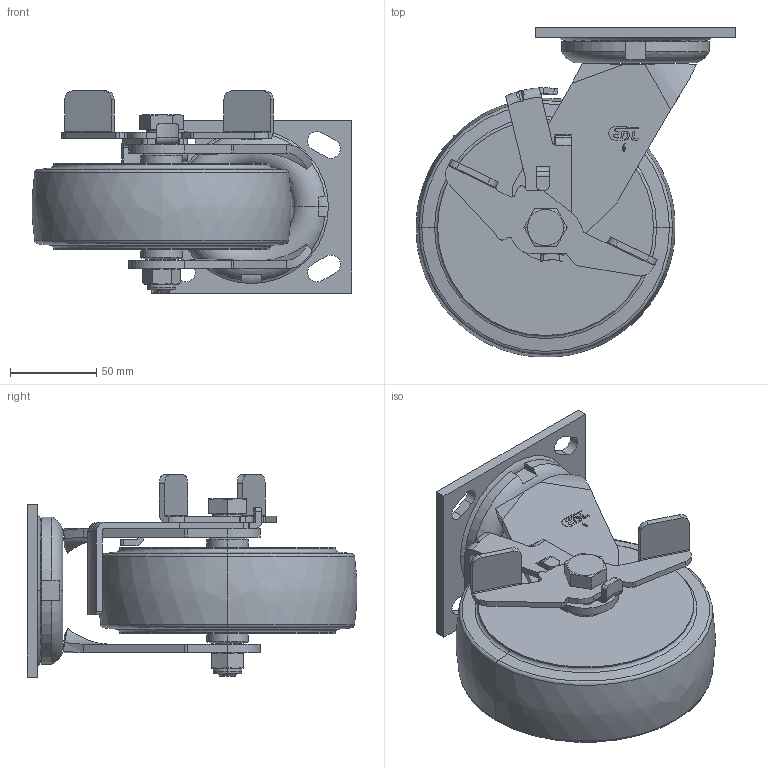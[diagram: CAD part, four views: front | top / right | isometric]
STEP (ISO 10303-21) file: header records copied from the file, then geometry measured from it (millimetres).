
FILE_DESCRIPTION((''),'2;1');
FILE_NAME('73126C-736-86_ASM','2020-12-01T',('lenovo'),(''),'PRO/ENGINEER BY PARAMETRIC TECHNOLOGY CORPORATION, 2010280','PRO/ENGINEER BY PARAMETRIC TECHNOLOGY CORPORATION, 2010280','');
FILE_SCHEMA(('CONFIG_CONTROL_DESIGN'));
Length unit declared in the file: millimetre
Products named in the file (10): 7310-201; 7310-211; 7316-353; 7316-311_ASM; 736-86; 700C-33; 7010-34; 706-15; 700-14; 73126C-736-86_ASM
Assembly tree (9 placements, depth 3):
  73126C-736-86_ASM
    7310-201
    7316-311_ASM
      7310-211
      7316-353
    736-86
    700C-33
    7010-34
    706-15
    700-14
Bounding box: 184.83 x 190.83 x 117 mm (x, y, z)
Volume: 1073170.7 mm3; surface area: 152405.6 mm2
Topology: 9 solids, 9 shells, 560 faces, 1455 edges, 935 vertices
Faces by surface type: plane 344, cylinder 125, torus 59, cone 22, bspline 10
Entity records: 17928 total; most frequent: CARTESIAN_POINT 3810, ORIENTED_EDGE 2910, DIRECTION 2881, EDGE_CURVE 1455, VECTOR 1009, LINE 1009, AXIS2_PLACEMENT_3D 936, VERTEX_POINT 935
